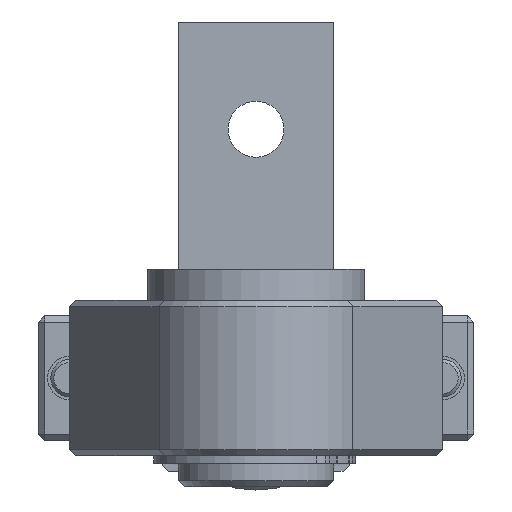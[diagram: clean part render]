
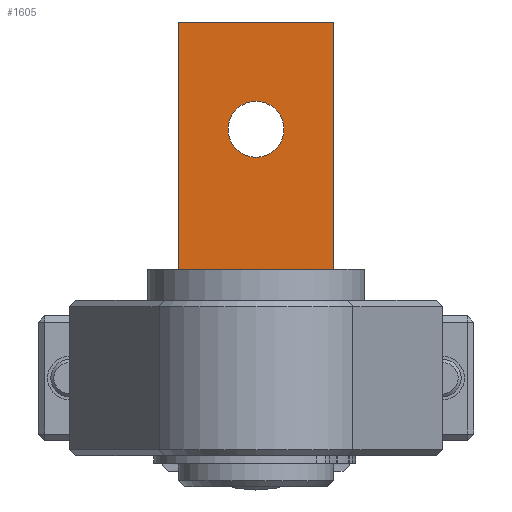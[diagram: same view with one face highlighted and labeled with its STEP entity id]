
A CAD part, left-side view. The second image highlights one B-rep face of the part: STEP entity #1605.
In plain terms, the highlighted planar face has unit normal (-1, 0, 0) as drawn and (0, 1, 0) by its records, which use the part's own axes.
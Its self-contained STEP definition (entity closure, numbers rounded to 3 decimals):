
#1605 = ADVANCED_FACE( '', ( #3067, #3068 ), #3069, .F. );
#3067 = FACE_BOUND( '', #4439, .T. );
#3068 = FACE_OUTER_BOUND( '', #4440, .T. );
#3069 = PLANE( '', #4441 );
#4439 = EDGE_LOOP( '', ( #7178 ) );
#4440 = EDGE_LOOP( '', ( #7179, #7180, #7181, #7182 ) );
#4441 = AXIS2_PLACEMENT_3D( '', #7183, #7184, #7185 );
#7178 = ORIENTED_EDGE( '', *, *, #8436, .T. );
#7179 = ORIENTED_EDGE( '', *, *, #7434, .T. );
#7180 = ORIENTED_EDGE( '', *, *, #8121, .F. );
#7181 = ORIENTED_EDGE( '', *, *, #8160, .F. );
#7182 = ORIENTED_EDGE( '', *, *, #8011, .T. );
#7183 = CARTESIAN_POINT( '', ( -7.388, 42.961, 25. ) );
#7184 = DIRECTION( '', ( 0., -1., 0. ) );
#7185 = DIRECTION( '', ( 1., 0., 0. ) );
#7434 = EDGE_CURVE( '', #8499, #8505, #8507, .T. );
#8011 = EDGE_CURVE( '', #9418, #8499, #9419, .T. );
#8121 = EDGE_CURVE( '', #9570, #8505, #9572, .T. );
#8160 = EDGE_CURVE( '', #9418, #9570, #9628, .T. );
#8436 = EDGE_CURVE( '', #9952, #9952, #9953, .T. );
#8499 = VERTEX_POINT( '', #10024 );
#8505 = VERTEX_POINT( '', #10033 );
#8507 = LINE( '', #10036, #10037 );
#9418 = VERTEX_POINT( '', #11645 );
#9419 = LINE( '', #11646, #11647 );
#9570 = VERTEX_POINT( '', #11919 );
#9572 = LINE( '', #11922, #11923 );
#9628 = LINE( '', #12016, #12017 );
#9952 = VERTEX_POINT( '', #12834 );
#9953 = CIRCLE( '', #12835, 4.5 );
#10024 = CARTESIAN_POINT( '', ( -7.388, 42.961, 0. ) );
#10033 = CARTESIAN_POINT( '', ( -47.138, 42.961, 0. ) );
#10036 = CARTESIAN_POINT( '', ( -7.388, 42.961, 0. ) );
#10037 = VECTOR( '', #12898, 1000. );
#11645 = CARTESIAN_POINT( '', ( -7.388, 42.961, 25. ) );
#11646 = CARTESIAN_POINT( '', ( -7.388, 42.961, 25. ) );
#11647 = VECTOR( '', #13537, 1000. );
#11919 = CARTESIAN_POINT( '', ( -47.138, 42.961, 25. ) );
#11922 = CARTESIAN_POINT( '', ( -47.138, 42.961, 25. ) );
#11923 = VECTOR( '', #13640, 1000. );
#12016 = CARTESIAN_POINT( '', ( -7.388, 42.961, 25. ) );
#12017 = VECTOR( '', #13685, 1000. );
#12834 = CARTESIAN_POINT( '', ( -20.138, 42.961, 12.5 ) );
#12835 = AXIS2_PLACEMENT_3D( '', #13884, #13885, #13886 );
#12898 = DIRECTION( '', ( -1., 0., 0. ) );
#13537 = DIRECTION( '', ( 0., 0., -1. ) );
#13640 = DIRECTION( '', ( 0., 0., -1. ) );
#13685 = DIRECTION( '', ( -1., 0., 0. ) );
#13884 = CARTESIAN_POINT( '', ( -24.638, 42.961, 12.5 ) );
#13885 = DIRECTION( '', ( 0., -1., 0. ) );
#13886 = DIRECTION( '', ( 1., 0., 0. ) );
